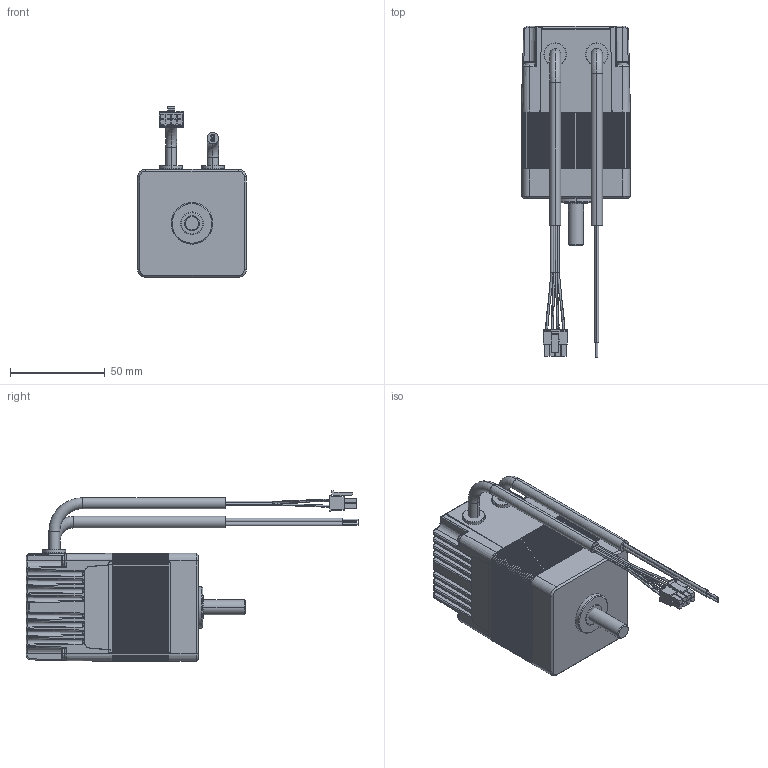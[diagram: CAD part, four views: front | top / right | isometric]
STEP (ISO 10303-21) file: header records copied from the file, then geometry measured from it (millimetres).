
FILE_DESCRIPTION((''),'2;1');
FILE_NAME('ENV_SIMP_STEP_TEMP','2012-10-24T',('VALJBL1'),('CROUZET-AUTOMATISMES'),'PRO/ENGINEER BY PARAMETRIC TECHNOLOGY CORPORATION, 2012090','PRO/ENGINEER BY PARAMETRIC TECHNOLOGY CORPORATION, 2012090','');
FILE_SCHEMA(('CONFIG_CONTROL_DESIGN'));
Length unit declared in the file: millimetre
Products named in the file (1): ENV_SIMP_STEP_TEMP
Bounding box: 57.4 x 175.45 x 90.31 mm (x, y, z)
Surface area: 56724.2 mm2 (no closed solid volume)
Topology: 0 solids, 111 shells, 1353 faces, 3792 edges, 2478 vertices
Faces by surface type: plane 639, cylinder 556, sphere 48, bspline 44, torus 36, cone 30
Entity records: 44751 total; most frequent: CARTESIAN_POINT 11161, DIRECTION 7451, ORIENTED_EDGE 5607, EDGE_CURVE 3792, AXIS2_PLACEMENT_3D 2487, VERTEX_POINT 2478, VECTOR 2477, LINE 2477
